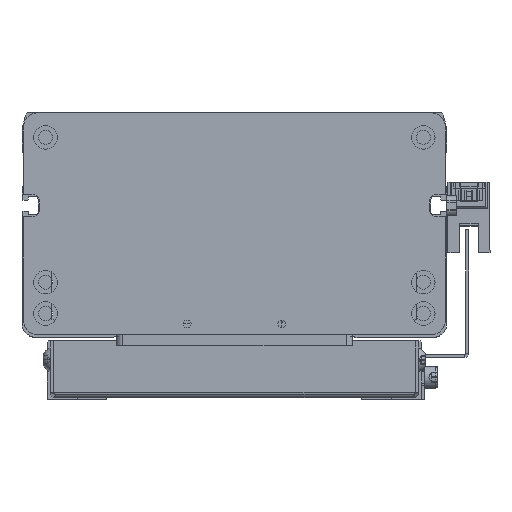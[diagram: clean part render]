
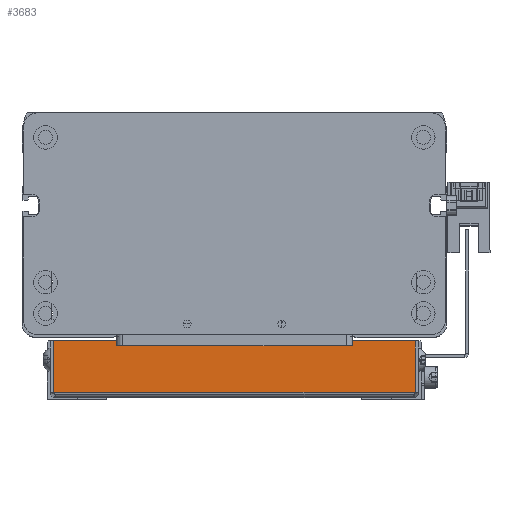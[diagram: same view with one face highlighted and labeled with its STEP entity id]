
A CAD part, front view. The second image highlights one B-rep face of the part: STEP entity #3683.
In plain terms, the highlighted planar face has unit normal (0, -1, 0) as drawn and (0, 0, -1) by its records, which use the part's own axes.
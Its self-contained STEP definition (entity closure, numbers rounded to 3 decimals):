
#190 = CARTESIAN_POINT ( 'NONE',  ( -53.796, 56.624, 628.624 ) ) ;
#410 = VERTEX_POINT ( 'NONE', #190 ) ;
#452 = EDGE_CURVE ( 'NONE', #410, #28474, #29661, .T. ) ;
#674 = CARTESIAN_POINT ( 'NONE',  ( 61.004, 40.36, 628.624 ) ) ;
#2279 = LINE ( 'NONE', #21345, #8745 ) ;
#2412 = LINE ( 'NONE', #30444, #5838 ) ;
#2601 = ORIENTED_EDGE ( 'NONE', *, *, #452, .F. ) ;
#3257 = EDGE_CURVE ( 'NONE', #28474, #8625, #2279, .T. ) ;
#3683 = ADVANCED_FACE ( 'NONE', ( #31990 ), #27937, .F. ) ;
#5838 = VECTOR ( 'NONE', #11228, 1000. ) ;
#8625 = VERTEX_POINT ( 'NONE', #674 ) ;
#8745 = VECTOR ( 'NONE', #13682, 1000. ) ;
#9569 = LINE ( 'NONE', #22462, #21959 ) ;
#11228 = DIRECTION ( 'NONE',  ( -1., 0., 0. ) ) ;
#11236 = CARTESIAN_POINT ( 'NONE',  ( 139.113, 58.36, 628.624 ) ) ;
#12539 = ORIENTED_EDGE ( 'NONE', *, *, #25284, .F. ) ;
#13682 = DIRECTION ( 'NONE',  ( 1., 0., 0. ) ) ;
#14178 = CARTESIAN_POINT ( 'NONE',  ( -53.796, 56.624, 628.624 ) ) ;
#15014 = VERTEX_POINT ( 'NONE', #31757 ) ;
#15251 = DIRECTION ( 'NONE',  ( 0., -1., 0. ) ) ;
#15354 = EDGE_LOOP ( 'NONE', ( #12539, #22167, #26867, #2601 ) ) ;
#16913 = EDGE_CURVE ( 'NONE', #15014, #8625, #9569, .T. ) ;
#17621 = VECTOR ( 'NONE', #19260, 1000. ) ;
#19260 = DIRECTION ( 'NONE',  ( 0., -1., 0. ) ) ;
#20997 = DIRECTION ( 'NONE',  ( 0., 0., 1. ) ) ;
#21345 = CARTESIAN_POINT ( 'NONE',  ( -53.896, 40.36, 628.624 ) ) ;
#21959 = VECTOR ( 'NONE', #15251, 1000. ) ;
#22167 = ORIENTED_EDGE ( 'NONE', *, *, #16913, .T. ) ;
#22462 = CARTESIAN_POINT ( 'NONE',  ( 61.004, 56.624, 628.624 ) ) ;
#23587 = DIRECTION ( 'NONE',  ( 0., -1., 0. ) ) ;
#25284 = EDGE_CURVE ( 'NONE', #15014, #410, #2412, .T. ) ;
#26867 = ORIENTED_EDGE ( 'NONE', *, *, #3257, .F. ) ;
#27359 = CARTESIAN_POINT ( 'NONE',  ( -53.796, 40.36, 628.624 ) ) ;
#27526 = AXIS2_PLACEMENT_3D ( 'NONE', #11236, #20997, #23587 ) ;
#27937 = PLANE ( 'NONE',  #27526 ) ;
#28474 = VERTEX_POINT ( 'NONE', #27359 ) ;
#29661 = LINE ( 'NONE', #14178, #17621 ) ;
#30444 = CARTESIAN_POINT ( 'NONE',  ( 139.113, 56.624, 628.624 ) ) ;
#31757 = CARTESIAN_POINT ( 'NONE',  ( 61.004, 56.624, 628.624 ) ) ;
#31990 = FACE_OUTER_BOUND ( 'NONE', #15354, .T. ) ;
